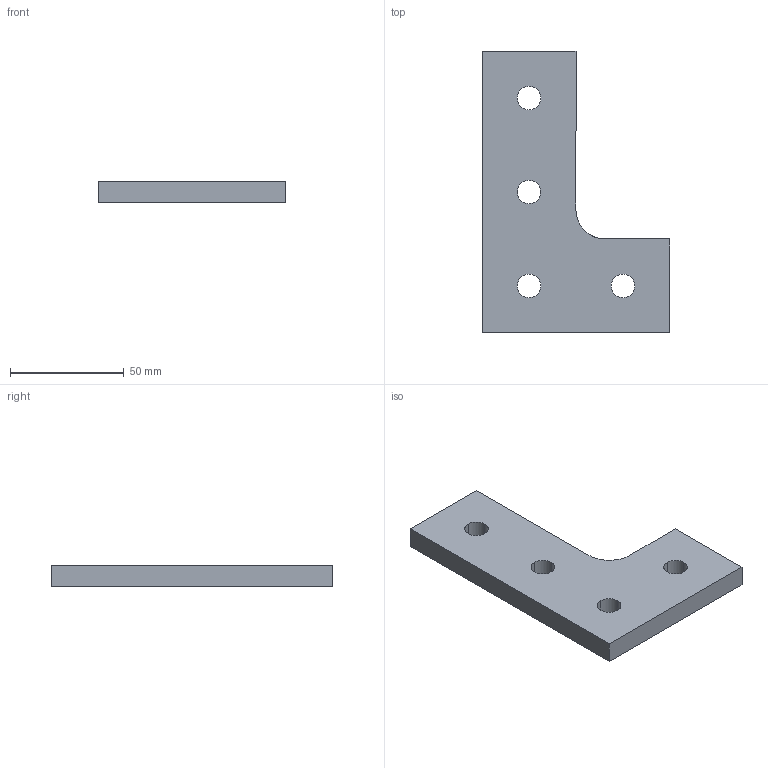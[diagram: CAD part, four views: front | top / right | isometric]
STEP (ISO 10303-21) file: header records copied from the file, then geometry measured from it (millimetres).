
FILE_DESCRIPTION(('TurboCAD Mac Pro'),'Build 980');
FILE_NAME('F20P-2510.stp',' ',(''),(''),'ACIS Interop','IMSI','TurboCAD Mac Pro BY IMSI, INCORPORATED');
FILE_SCHEMA(('automotive_design'));
Length unit declared in the file: inch
Products named in the file (2): 1; 2
Bounding box: 82.55 x 123.83 x 9.53 mm (x, y, z)
Volume: 62052.3 mm3; surface area: 18143.9 mm2
Topology: 1 solids, 1 shells, 25 faces, 69 edges, 46 vertices
Faces by surface type: bspline 17, plane 8
Entity records: 1436 total; most frequent: CARTESIAN_POINT 437, ORIENTED_EDGE 138, EDGE_CURVE 69, DIRECTION 61, B_SPLINE_CURVE_WITH_KNOTS 51, STYLED_ITEM 49, PRESENTATION_STYLE_ASSIGNMENT 49, COLOUR_RGB 49
